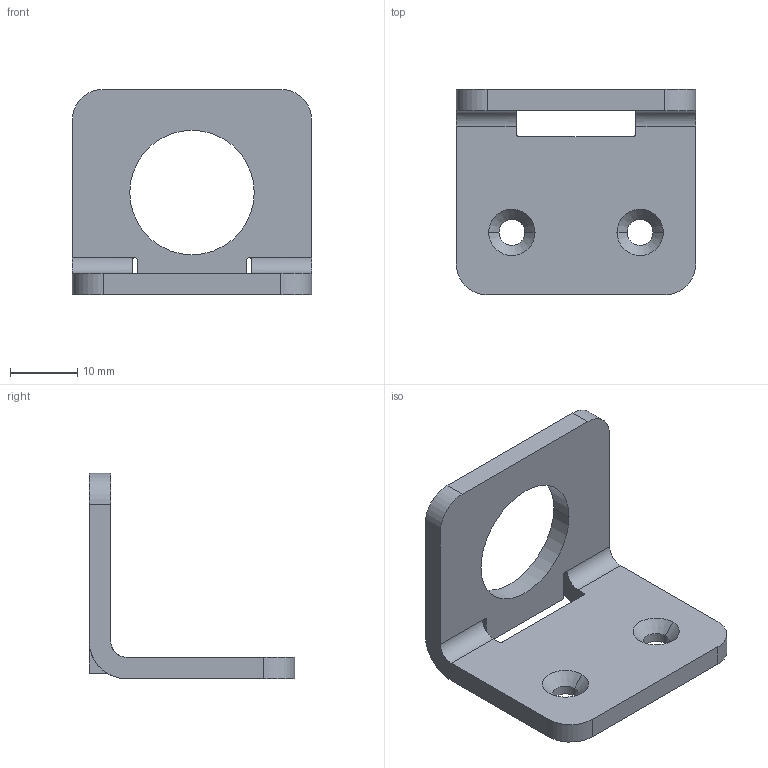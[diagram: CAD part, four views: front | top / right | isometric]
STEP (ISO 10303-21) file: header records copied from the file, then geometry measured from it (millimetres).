
FILE_DESCRIPTION((''),'2;1');
FILE_NAME('10003447329','2018-10-30T14:26:25',('SRao1'),('Rockwell Automation'),'CREO PARAMETRIC BY PTC INC, 2017380','CREO PARAMETRIC BY PTC INC, 2017380','');
FILE_SCHEMA(('CONFIG_CONTROL_DESIGN'));
Length unit declared in the file: inch
Products named in the file (1): 10003447329
Bounding box: 35.56 x 30.48 x 30.48 mm (x, y, z)
Volume: 5124.3 mm3; surface area: 4244.2 mm2
Topology: 1 solids, 1 shells, 40 faces, 112 edges, 72 vertices
Faces by surface type: cylinder 20, plane 16, cone 4
Entity records: 1368 total; most frequent: CARTESIAN_POINT 252, DIRECTION 228, ORIENTED_EDGE 224, EDGE_CURVE 112, AXIS2_PLACEMENT_3D 80, VERTEX_POINT 72, VECTOR 68, LINE 68
